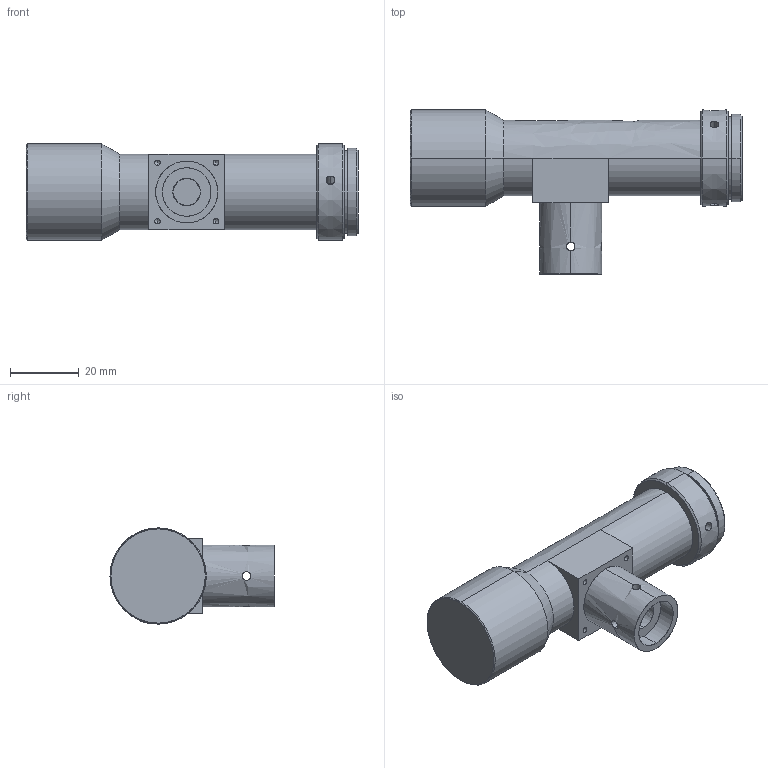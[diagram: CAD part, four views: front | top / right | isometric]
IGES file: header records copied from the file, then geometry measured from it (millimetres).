
Start section: SolidWorks IGES file using analytic representation for surfaces
Global section: file name: D:\撮扲窒\3D俋倛芞\3D   igs\WWH\WWH05-180CT.IGS; native system: SolidWorks 2012; preprocessor: SolidWorks 2012; author: ZXC; date: 181212.135119; units: millimetre
Bounding box: 96.5 x 47.7 x 28 mm (x, y, z)
Surface area: 11494.3 mm2 (no closed solid volume)
Topology: 0 solids, 0 shells, 76 faces, 1396 edges, 1382 vertices
Faces by surface type: revolution 63, bspline 13
